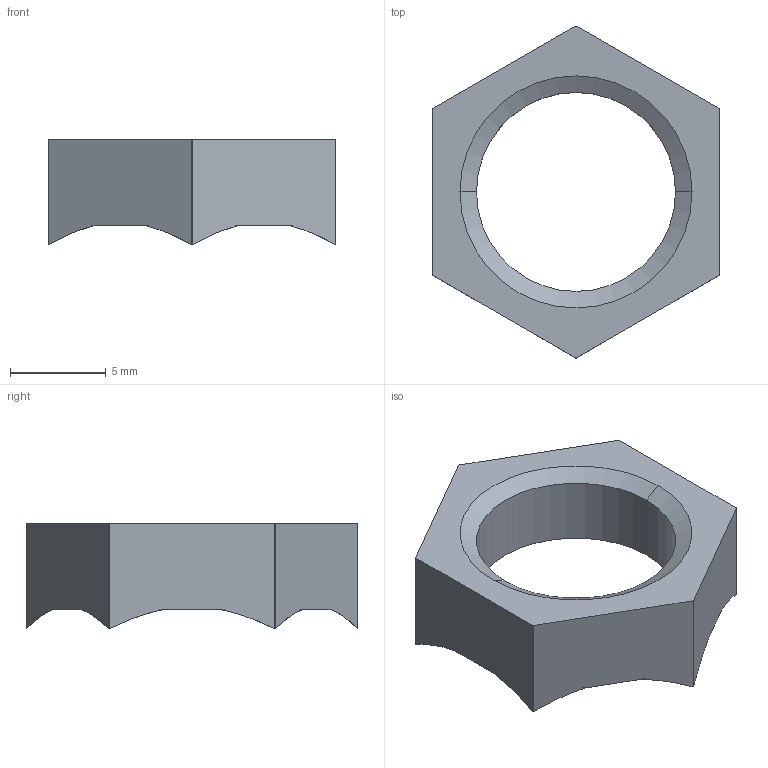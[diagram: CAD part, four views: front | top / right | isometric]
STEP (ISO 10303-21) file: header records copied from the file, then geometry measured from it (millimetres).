
FILE_DESCRIPTION (( 'STEP AP203' ), '1' );
FILE_NAME ('50.212 MPOT.STEP', '2006-05-18T08:33:00', ( ' ' ), ( '' ), 'SwSTEP 2.0', 'SolidWorks 2005278', '' );
FILE_SCHEMA (( 'CONFIG_CONTROL_DESIGN' ));
Length unit declared in the file: millimetre
Products named in the file (1): 50.212 MPOT
Bounding box: 15 x 17.3 x 5.5 mm (x, y, z)
Volume: 485.4 mm3; surface area: 599.5 mm2
Topology: 1 solids, 1 shells, 63 faces, 170 edges, 112 vertices
Faces by surface type: plane 45, cone 10, cylinder 8
Entity records: 2079 total; most frequent: CARTESIAN_POINT 410, ORIENTED_EDGE 340, DIRECTION 312, EDGE_CURVE 170, LINE 132, VECTOR 132, VERTEX_POINT 112, AXIS2_PLACEMENT_3D 90
